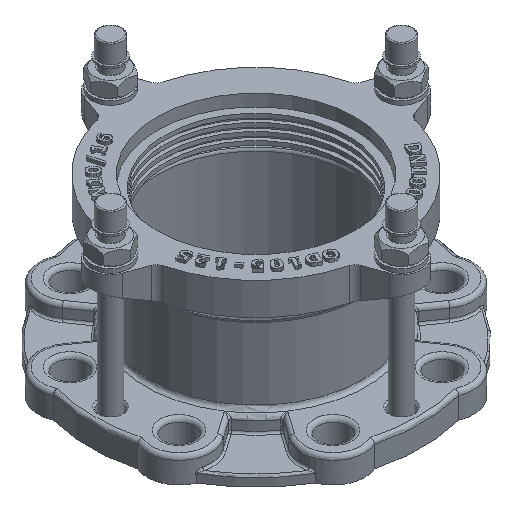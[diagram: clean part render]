
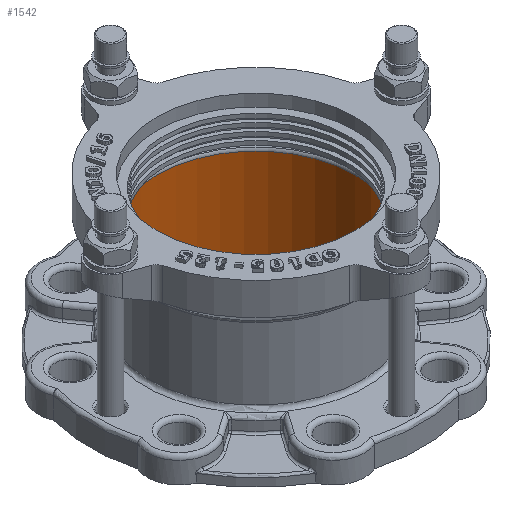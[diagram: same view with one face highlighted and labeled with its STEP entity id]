
A CAD part, isometric view. The second image highlights one B-rep face of the part: STEP entity #1542.
In plain terms, the highlighted cylindrical face has radius 62.5 mm (diameter 125 mm), a full revolution.
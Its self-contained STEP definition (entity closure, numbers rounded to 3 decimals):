
#1542=ADVANCED_FACE('',(#10173,#10175),#10177,.F.);
#10173=FACE_OUTER_BOUND('',#10174,.T.);
#10174=EDGE_LOOP('',(#15484));
#10175=FACE_OUTER_BOUND('',#10176,.T.);
#10176=EDGE_LOOP('',(#15485));
#10177=CYLINDRICAL_SURFACE('',#10178,62.5);
#10178=AXIS2_PLACEMENT_3D('',#10179,#10180,#10181);
#10179=CARTESIAN_POINT('',(0.,0.,3.));
#10180=DIRECTION('',(0.,0.,1.));
#10181=DIRECTION('',(-1.,0.,0.));
#15484=ORIENTED_EDGE('',*,*,#19925,.F.);
#15485=ORIENTED_EDGE('',*,*,#19926,.T.);
#19925=EDGE_CURVE('',#22496,#22496,#22497,.T.);
#19926=EDGE_CURVE('',#22498,#22498,#22499,.F.);
#22496=VERTEX_POINT('',#31488);
#22497=CIRCLE('',#31489,62.5);
#22498=VERTEX_POINT('',#31493);
#22499=CIRCLE('',#31494,62.5);
#31488=CARTESIAN_POINT('',(0.,62.5,68.75));
#31489=AXIS2_PLACEMENT_3D('',#31490,#31491,#31492);
#31490=CARTESIAN_POINT('',(0.,0.,68.75));
#31491=DIRECTION('',(0.,0.,-1.));
#31492=DIRECTION('',(0.,1.,0.));
#31493=CARTESIAN_POINT('',(0.,62.5,5.5));
#31494=AXIS2_PLACEMENT_3D('',#31495,#31496,#31497);
#31495=CARTESIAN_POINT('',(0.,0.,5.5));
#31496=DIRECTION('',(0.,0.,1.));
#31497=DIRECTION('',(0.,1.,0.));
